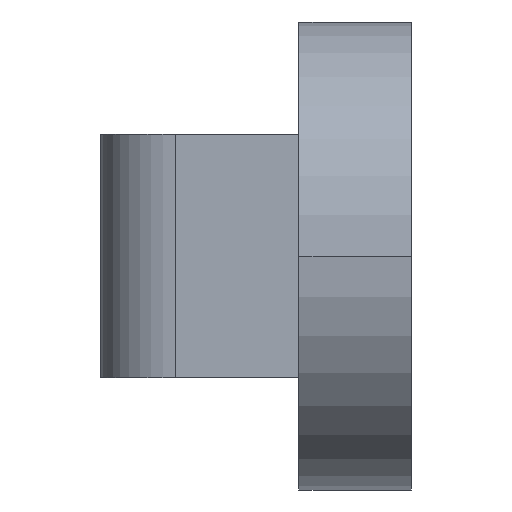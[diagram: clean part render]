
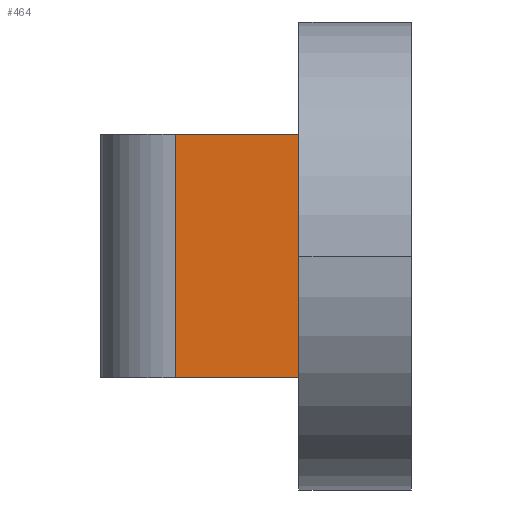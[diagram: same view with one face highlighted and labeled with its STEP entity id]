
A CAD part, left-side view. The second image highlights one B-rep face of the part: STEP entity #464.
In plain terms, the highlighted planar face has unit normal (-1, 0, 0).
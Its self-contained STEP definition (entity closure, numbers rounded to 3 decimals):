
#22 = DIRECTION ( 'NONE',  ( 0., 0., -1. ) ) ;
#24 = PLANE ( 'NONE',  #88 ) ;
#27 = EDGE_CURVE ( 'NONE', #46, #136, #37, .T. ) ;
#29 = DIRECTION ( 'NONE',  ( 0., 0., -1. ) ) ;
#37 = LINE ( 'NONE', #572, #518 ) ;
#46 = VERTEX_POINT ( 'NONE', #357 ) ;
#58 = DIRECTION ( 'NONE',  ( 0., 0., -1. ) ) ;
#88 = AXIS2_PLACEMENT_3D ( 'NONE', #291, #436, #29 ) ;
#106 = EDGE_CURVE ( 'NONE', #293, #580, #726, .T. ) ;
#112 = EDGE_CURVE ( 'NONE', #293, #46, #533, .T. ) ;
#136 = VERTEX_POINT ( 'NONE', #738 ) ;
#211 = EDGE_LOOP ( 'NONE', ( #620, #624, #632, #740 ) ) ;
#236 = FACE_OUTER_BOUND ( 'NONE', #211, .T. ) ;
#245 = LINE ( 'NONE', #870, #539 ) ;
#291 = CARTESIAN_POINT ( 'NONE',  ( -10.211, 9.117, 6.35 ) ) ;
#293 = VERTEX_POINT ( 'NONE', #407 ) ;
#357 = CARTESIAN_POINT ( 'NONE',  ( -10.211, 6.402, 3.302 ) ) ;
#407 = CARTESIAN_POINT ( 'NONE',  ( -10.211, 3.048, 3.302 ) ) ;
#436 = DIRECTION ( 'NONE',  ( 1., 0., 0. ) ) ;
#455 = DIRECTION ( 'NONE',  ( 0., 1., 0. ) ) ;
#464 = ADVANCED_FACE ( 'NONE', ( #236 ), #24, .F. ) ;
#484 = VECTOR ( 'NONE', #805, 1000. ) ;
#518 = VECTOR ( 'NONE', #22, 1000. ) ;
#533 = LINE ( 'NONE', #662, #484 ) ;
#539 = VECTOR ( 'NONE', #455, 1000. ) ;
#556 = VECTOR ( 'NONE', #58, 1000. ) ;
#572 = CARTESIAN_POINT ( 'NONE',  ( -10.211, 6.402, 6.35 ) ) ;
#580 = VERTEX_POINT ( 'NONE', #585 ) ;
#585 = CARTESIAN_POINT ( 'NONE',  ( -10.211, 3.048, -3.302 ) ) ;
#591 = CARTESIAN_POINT ( 'NONE',  ( -10.211, 3.048, 6.35 ) ) ;
#620 = ORIENTED_EDGE ( 'NONE', *, *, #106, .F. ) ;
#624 = ORIENTED_EDGE ( 'NONE', *, *, #112, .T. ) ;
#632 = ORIENTED_EDGE ( 'NONE', *, *, #27, .T. ) ;
#662 = CARTESIAN_POINT ( 'NONE',  ( -10.211, 9.117, 3.302 ) ) ;
#677 = EDGE_CURVE ( 'NONE', #580, #136, #245, .T. ) ;
#726 = LINE ( 'NONE', #591, #556 ) ;
#738 = CARTESIAN_POINT ( 'NONE',  ( -10.211, 6.402, -3.302 ) ) ;
#740 = ORIENTED_EDGE ( 'NONE', *, *, #677, .F. ) ;
#805 = DIRECTION ( 'NONE',  ( 0., 1., 0. ) ) ;
#870 = CARTESIAN_POINT ( 'NONE',  ( -10.211, 9.117, -3.302 ) ) ;
